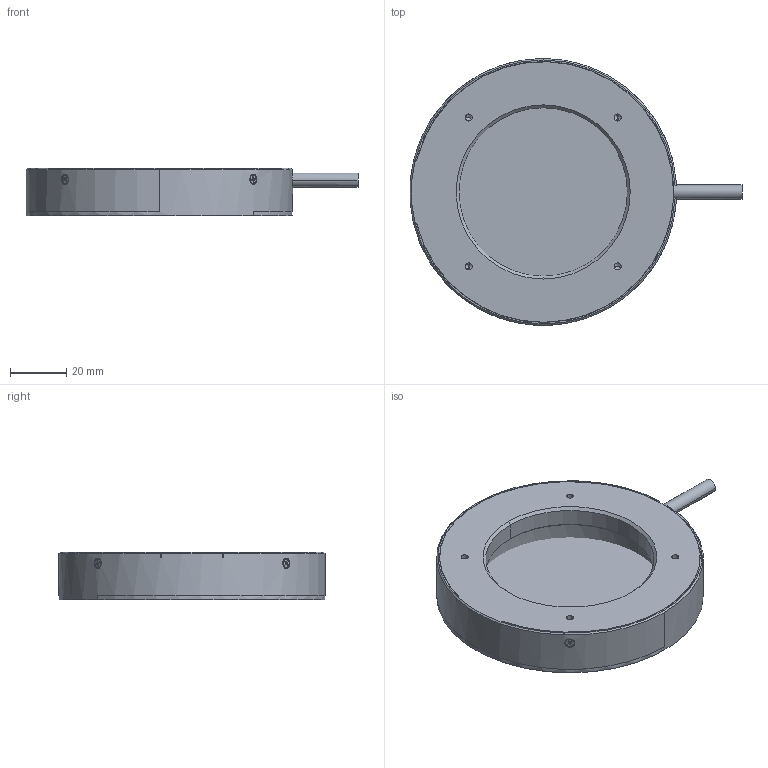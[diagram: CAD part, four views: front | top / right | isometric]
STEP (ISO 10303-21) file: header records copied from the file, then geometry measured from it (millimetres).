
FILE_DESCRIPTION((''),'2;1');
FILE_NAME('MV-LRDS-H-95-00-W','2022-09-02T14:51:15',('qiaoxuan5'),(''),'CREO PARAMETRIC BY PTC INC, 2020044','CREO PARAMETRIC BY PTC INC, 2020044','');
FILE_SCHEMA(('CONFIG_CONTROL_DESIGN'));
Length unit declared in the file: metre
Products named in the file (1): MV-LRDS-H-95-00-W
Bounding box: 118.23 x 95 x 17 mm (x, y, z)
Volume: 62074.4 mm3; surface area: 28354.8 mm2
Topology: 1 solids, 10 shells, 477 faces, 1203 edges, 742 vertices
Faces by surface type: plane 266, cylinder 133, cone 74, bspline 4
Entity records: 14888 total; most frequent: CARTESIAN_POINT 3438, ORIENTED_EDGE 2374, DIRECTION 2351, EDGE_CURVE 1187, AXIS2_PLACEMENT_3D 806, VERTEX_POINT 742, VECTOR 739, LINE 739
